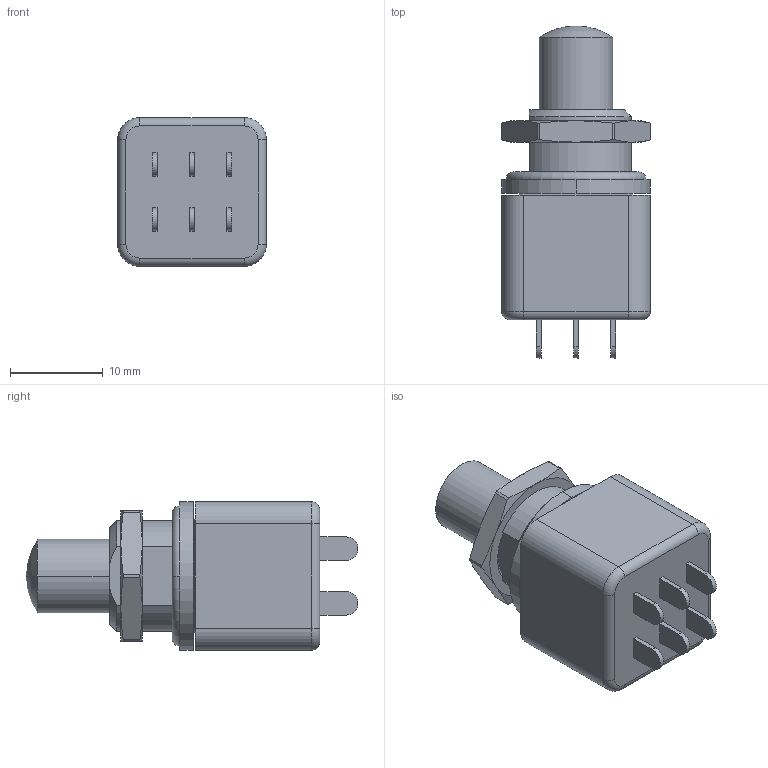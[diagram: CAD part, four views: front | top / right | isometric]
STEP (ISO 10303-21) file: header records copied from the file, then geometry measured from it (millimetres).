
FILE_DESCRIPTION((''),'2;1');
FILE_NAME('13445-9X778','2014-12-17T',('brevel'),(''),'PRO/ENGINEER BY PARAMETRIC TECHNOLOGY CORPORATION, 2013410','PRO/ENGINEER BY PARAMETRIC TECHNOLOGY CORPORATION, 2013410','');
FILE_SCHEMA(('CONFIG_CONTROL_DESIGN'));
Length unit declared in the file: millimetre
Products named in the file (1): 13445-9X778
Bounding box: 16.01 x 35.7 x 16 mm (x, y, z)
Volume: 5037.7 mm3; surface area: 2746.6 mm2
Topology: 1 solids, 1 shells, 126 faces, 325 edges, 213 vertices
Faces by surface type: plane 48, cylinder 41, cone 23, torus 8, sphere 6
Entity records: 4046 total; most frequent: CARTESIAN_POINT 858, DIRECTION 688, ORIENTED_EDGE 642, EDGE_CURVE 321, AXIS2_PLACEMENT_3D 271, VERTEX_POINT 213, VECTOR 146, LINE 146
